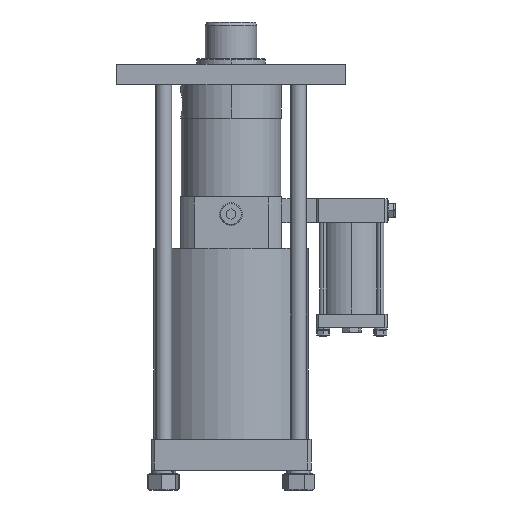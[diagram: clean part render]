
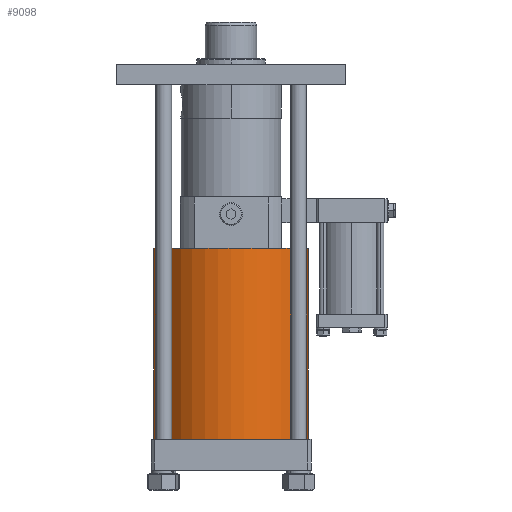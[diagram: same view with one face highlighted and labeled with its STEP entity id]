
A CAD part, front view. The second image highlights one B-rep face of the part: STEP entity #9098.
In plain terms, the highlighted cylindrical face has radius 67.5 mm (diameter 135 mm), a partial arc.
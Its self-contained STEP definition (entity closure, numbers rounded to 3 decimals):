
#509 = VECTOR ( 'NONE', #1139, 1000. ) ;
#841 = DIRECTION ( 'NONE',  ( 0., 0., 1. ) ) ;
#896 = EDGE_CURVE ( 'NONE', #3480, #2231, #2476, .T. ) ;
#1139 = DIRECTION ( 'NONE',  ( 0., 0., 1. ) ) ;
#1722 = DIRECTION ( 'NONE',  ( 1., 0., 0. ) ) ;
#2135 = CARTESIAN_POINT ( 'NONE',  ( -67.5, 0., -166. ) ) ;
#2231 = VERTEX_POINT ( 'NONE', #6781 ) ;
#2470 = EDGE_CURVE ( 'NONE', #2231, #3095, #6784, .T. ) ;
#2476 = LINE ( 'NONE', #7693, #9326 ) ;
#2872 = LINE ( 'NONE', #3795, #509 ) ;
#3095 = VERTEX_POINT ( 'NONE', #2135 ) ;
#3466 = CARTESIAN_POINT ( 'NONE',  ( -67.5, 0., -333. ) ) ;
#3480 = VERTEX_POINT ( 'NONE', #4292 ) ;
#3531 = VERTEX_POINT ( 'NONE', #3466 ) ;
#3795 = CARTESIAN_POINT ( 'NONE',  ( -67.5, 0., -333. ) ) ;
#3904 = DIRECTION ( 'NONE',  ( 1., 0., 0. ) ) ;
#4292 = CARTESIAN_POINT ( 'NONE',  ( 67.5, 0., -333. ) ) ;
#5160 = DIRECTION ( 'NONE',  ( 0., 0., -1. ) ) ;
#5242 = CARTESIAN_POINT ( 'NONE',  ( 0., 0., -166. ) ) ;
#5327 = EDGE_LOOP ( 'NONE', ( #9938, #9986, #7352, #8143 ) ) ;
#5366 = AXIS2_PLACEMENT_3D ( 'NONE', #5242, #6110, #3904 ) ;
#6107 = AXIS2_PLACEMENT_3D ( 'NONE', #10490, #5160, #11376 ) ;
#6110 = DIRECTION ( 'NONE',  ( 0., 0., -1. ) ) ;
#6197 = CARTESIAN_POINT ( 'NONE',  ( 0., 0., -333. ) ) ;
#6781 = CARTESIAN_POINT ( 'NONE',  ( 67.5, 0., -166. ) ) ;
#6784 = CIRCLE ( 'NONE', #5366, 67.5 ) ;
#7352 = ORIENTED_EDGE ( 'NONE', *, *, #896, .T. ) ;
#7693 = CARTESIAN_POINT ( 'NONE',  ( 67.5, 0., -333. ) ) ;
#8143 = ORIENTED_EDGE ( 'NONE', *, *, #2470, .T. ) ;
#8177 = CYLINDRICAL_SURFACE ( 'NONE', #9325, 67.5 ) ;
#8598 = EDGE_CURVE ( 'NONE', #3531, #3095, #2872, .T. ) ;
#9098 = ADVANCED_FACE ( 'NONE', ( #10551 ), #8177, .T. ) ;
#9325 = AXIS2_PLACEMENT_3D ( 'NONE', #6197, #841, #1722 ) ;
#9326 = VECTOR ( 'NONE', #9437, 1000. ) ;
#9437 = DIRECTION ( 'NONE',  ( 0., 0., 1. ) ) ;
#9938 = ORIENTED_EDGE ( 'NONE', *, *, #8598, .F. ) ;
#9986 = ORIENTED_EDGE ( 'NONE', *, *, #11334, .F. ) ;
#10490 = CARTESIAN_POINT ( 'NONE',  ( 0., 0., -333. ) ) ;
#10531 = CIRCLE ( 'NONE', #6107, 67.5 ) ;
#10551 = FACE_OUTER_BOUND ( 'NONE', #5327, .T. ) ;
#11334 = EDGE_CURVE ( 'NONE', #3480, #3531, #10531, .T. ) ;
#11376 = DIRECTION ( 'NONE',  ( 1., 0., 0. ) ) ;
